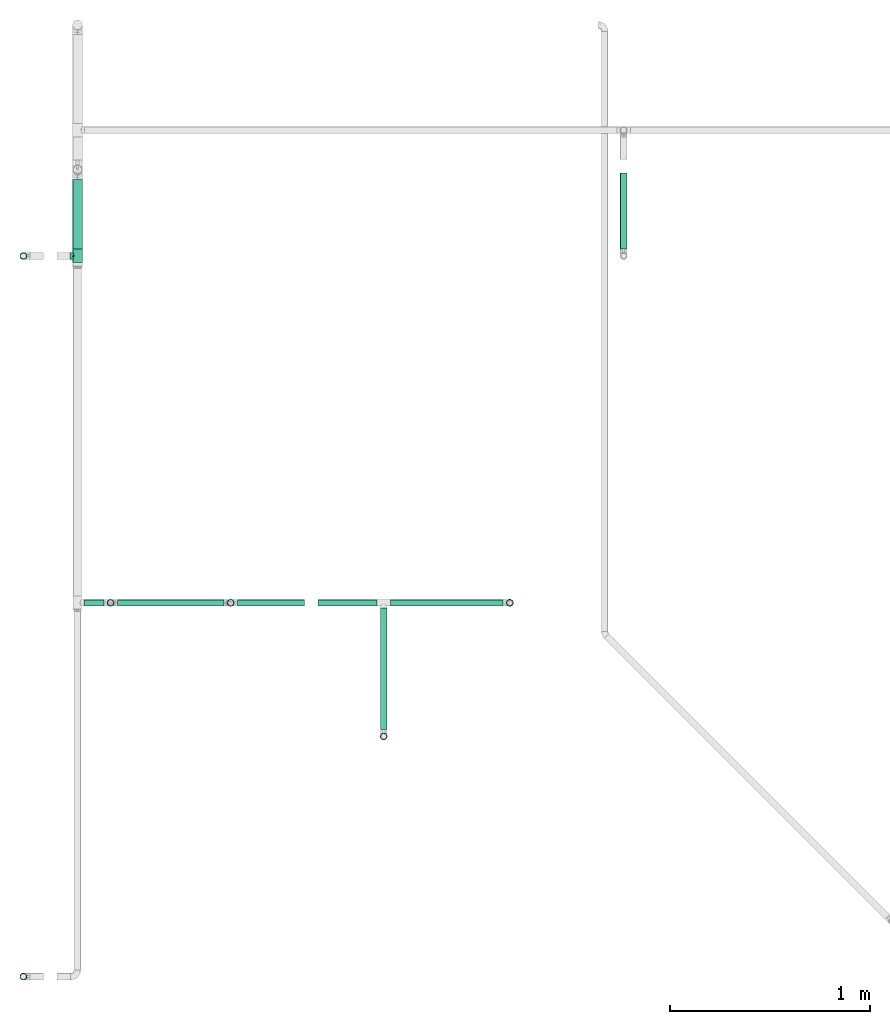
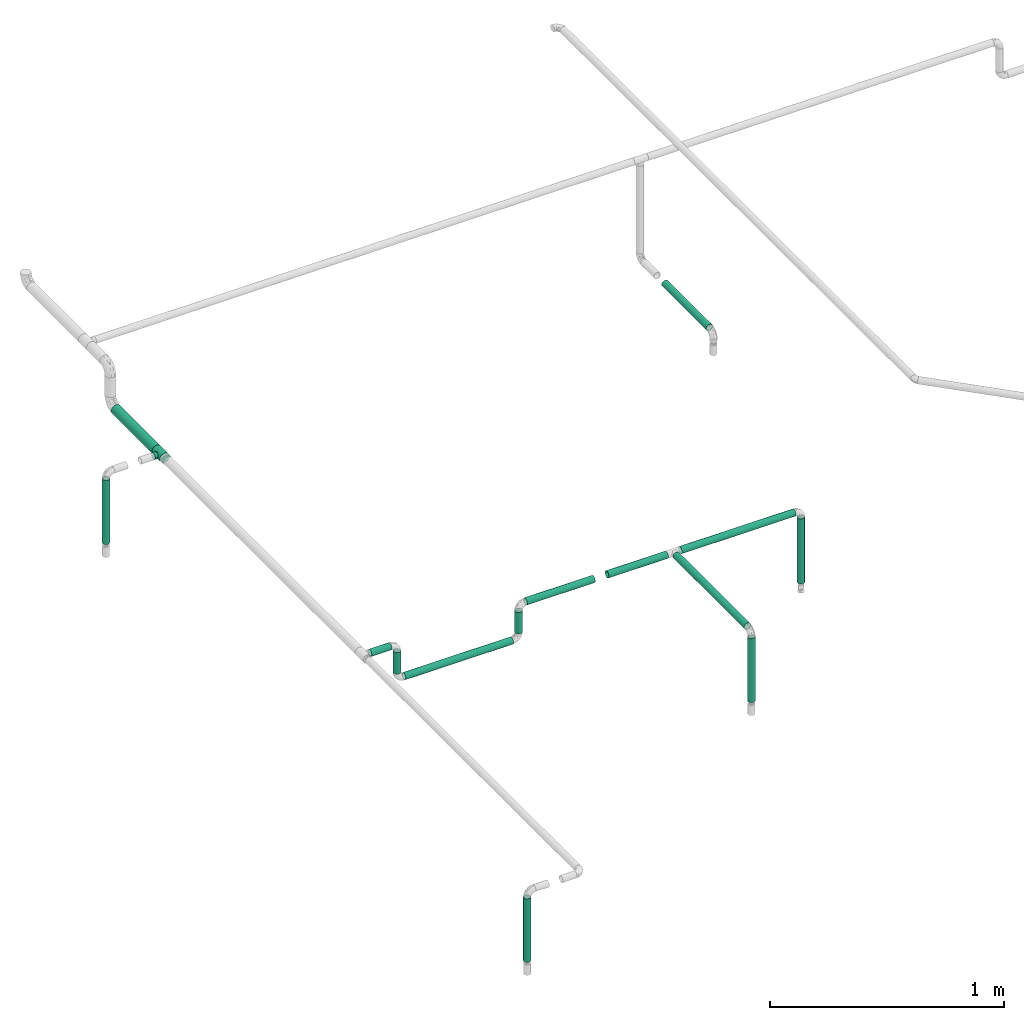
# One storey, part 4 of 17: 14 flow segments, 1 flow fitting.
"""IFC2X3 building model written with IfcOpenShell, lengths in millimetres."""

from ifc_helpers import new_model, entity, si_unit, converted_unit, derived_unit, direction, frame, origin_with_axes, origin_2d_with_axis, place, context, subcontext, project, spatial, hollow_circle, extrude, open_shell, surface_model, source, transform, mapped, type_object, element, save


model = new_model("IFC2X3")

# Units and contexts
model_context = context("Model", 3, precision=0.01, world=frame((0.0, 4.29681676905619e-09, 0.0)), true_north=direction((4.01073788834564e-13, 1.0)))
plan_context = context("Plan", 3, precision=0.01, world=frame((0.0, 4.29681676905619e-09, 0.0)), true_north=direction((4.01073788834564e-13, 1.0)))
body_context = subcontext(model_context, "Body", "Model", "MODEL_VIEW")
ifc_project = project(units=[converted_unit("PLANEANGLEUNIT", "DEGREE", entity("IfcPositiveLengthMeasure", 0.0174532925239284), si_unit("PLANEANGLEUNIT", "RADIAN"), dimensions=[0, 0, 0, 0, 0, 0, 0]), si_unit("AREAUNIT", "SQUARE_METRE"), si_unit("LENGTHUNIT", "METRE", prefix="MILLI"), si_unit("MASSUNIT", "GRAM", prefix="KILO"), si_unit("POWERUNIT", "WATT"), si_unit("PRESSUREUNIT", "PASCAL", prefix="KILO"), si_unit("FORCEUNIT", "NEWTON", prefix="KILO"), si_unit("ELECTRICVOLTAGEUNIT", "VOLT"), si_unit("ELECTRICCURRENTUNIT", "AMPERE"), si_unit("THERMODYNAMICTEMPERATUREUNIT", "DEGREE_CELSIUS"), si_unit("TIMEUNIT", "SECOND"), si_unit("VOLUMEUNIT", "CUBIC_METRE"), derived_unit("LINEARVELOCITYUNIT", [(si_unit("LENGTHUNIT", "METRE"), 1), (si_unit("TIMEUNIT", "SECOND"), -1)]), derived_unit("VOLUMETRICFLOWRATEUNIT", [(si_unit("VOLUMEUNIT", "CUBIC_METRE"), 1), (si_unit("TIMEUNIT", "SECOND"), -1)]), derived_unit("THERMALTRANSMITTANCEUNIT", [(si_unit("POWERUNIT", "WATT"), 1), (si_unit("THERMODYNAMICTEMPERATUREUNIT", "KELVIN"), -1), (si_unit("AREAUNIT", "SQUARE_METRE"), -1)]), derived_unit("SOUNDPRESSUREUNIT", [(si_unit("PRESSUREUNIT", "PASCAL"), 1)])], contexts=[model_context, plan_context])

# Site, building, storey
site_placement = place(None, frame((0.0, -4.29681676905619e-09, 0.0), z_axis=(0.0, 0.0, 1.0), x_axis=(1.0, 0.0, 0.0)))
site = spatial("IfcSite", under=ifc_project, at=site_placement, CompositionType="ELEMENT")
building_placement = place(site_placement, frame((0.0, 4.29681676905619e-09, 0.0), z_axis=(0.0, 0.0, 1.0), x_axis=(1.0, 0.0, 0.0)))
building = spatial("IfcBuilding", under=site, at=building_placement, Name="mc-building", CompositionType="ELEMENT")
storey_placement = place(building_placement, frame((0.0, 0.0, 204000.0), z_axis=(0.0, 0.0, 1.0), x_axis=(1.0, 0.0, 0.0)))
storey = spatial("IfcBuildingStorey", under=building, at=storey_placement, Name="Nivå D", CompositionType="ELEMENT", Elevation=204000.0)

# Flow fitting
pipe_fitting_type = type_object("IfcPipeFittingType", Name="magi_pipe_fe_tee_centric_90_NOR", PredefinedType="JUNCTION")
shared_shape_1 = source(origin_with_axes(), body_context, "Body", "SurfaceModel", [
    surface_model("IfcShellBasedSurfaceModel", [(-33.8, 0.0, -24.2), (-33.8, -6.26342, -23.37541), (-33.8, 6.26342, -23.37541), (-33.8, 12.1, -20.95781), (-33.8, 17.11198, -17.11198), (-33.8, 20.95781, -12.1), (-33.8, -23.37541, -6.26342), (-33.8, 23.37541, -6.26342), (-33.8, -17.11198, -17.11198), (-33.8, -20.95781, -12.1), (-33.8, -12.1, -20.95781), (-33.8, -24.2, 0.0), (-33.8, -23.37541, 6.26342), (-33.8, 20.95781, 12.1), (-33.8, 23.37541, 6.26342), (-33.8, 24.2, 0.0), (-33.8, 12.1, 20.95781), (-33.8, 17.11198, 17.11198), (-33.8, -17.11198, 17.11198), (-33.8, 6.26342, 23.37541), (-33.8, -20.95781, 12.1), (-33.8, -12.1, 20.95781), (-33.8, -6.26342, 23.37541), (-33.8, 0.0, 24.2), (33.8, 6.26342, -23.37541), (33.8, -6.26342, -23.37541), (33.8, 0.0, -24.2), (33.8, 17.11198, -17.11198), (33.8, 12.1, -20.95781), (33.8, -23.37541, -6.26342), (33.8, 20.95781, -12.1), (33.8, 23.37541, -6.26342), (33.8, -17.11198, -17.11198), (33.8, -12.1, -20.95781), (33.8, -20.95781, -12.1), (33.8, -24.2, 0.0), (33.8, 24.2, 0.0), (33.8, 23.37541, 6.26342), (33.8, 20.95781, 12.1), (33.8, -23.37541, 6.26342), (33.8, -17.11198, 17.11198), (33.8, 12.1, 20.95781), (33.8, 17.11198, 17.11198), (33.8, 6.26342, 23.37541), (33.8, -20.95781, 12.1), (33.8, -12.1, 20.95781), (33.8, 0.0, 24.2), (33.8, -6.26342, 23.37541), (15.81824, -23.45734, 5.94922), (16.9, -24.2, 0.0), (12.87025, -21.57947, 10.95293), (33.8, -19.0349, 14.60599), (8.52813, -19.30697, 14.59044), (3.03527, -17.5853, 16.6252), (-3.04044, -17.58619, 16.62425), (-8.52961, -19.30762, 14.58958), (-33.8, -19.0349, 14.60599), (-16.9, -24.2, 0.0), (-15.81885, -23.45775, 5.9476), (-12.87368, -21.58151, 10.9489), (3.03527, -17.5853, -16.6252), (33.8, -19.0349, -14.60599), (8.52813, -19.30697, -14.59044), (-8.52961, -19.30762, -14.58958), (-33.8, -19.0349, -14.60599), (12.87025, -21.57947, -10.95293), (-3.04044, -17.58619, -16.62425), (15.81824, -23.45734, -5.94922), (-12.87368, -21.58151, -10.9489), (-15.81885, -23.45775, -5.9476), (4.37404, -36.3, -16.32415), (-16.9, -36.3, 0.0), (0.0, -36.3, -16.9), (14.63583, -36.3, -8.45), (8.45, -36.3, -14.63583), (16.32415, -36.3, -4.37404), (11.9501, -36.3, -11.9501), (-11.9501, -36.3, -11.9501), (-8.45, -36.3, -14.63583), (-4.37404, -36.3, -16.32415), (-14.63583, -36.3, -8.45), (-16.32415, -36.3, -4.37404), (16.9, -36.3, 0.0), (8.45, -36.3, 14.63583), (16.32415, -36.3, 4.37404), (14.63583, -36.3, 8.45), (-8.45, -36.3, 14.63583), (11.9501, -36.3, 11.9501), (4.37404, -36.3, 16.32415), (-16.32415, -36.3, 4.37404), (-11.9501, -36.3, 11.9501), (-14.63583, -36.3, 8.45), (0.0, -36.3, 16.9), (-4.37404, -36.3, 16.32415), (-16.35943, -23.82888, 2.9738), (16.35912, -23.82867, 2.97461), (-0.00259, -17.58575, 16.62472), (16.35912, -23.82867, -2.97461), (-0.00259, -17.58575, -16.62472), (-16.35943, -23.82888, -2.9738)], [open_shell([[[0, 1, 2]], [[3, 2, 4]], [[5, 2, 6]], [[4, 2, 5]], [[7, 5, 6]], [[8, 9, 10]], [[1, 10, 9]], [[1, 9, 2]], [[9, 6, 2]], [[6, 11, 7]], [[11, 12, 7]], [[13, 14, 15]], [[13, 15, 12]], [[16, 17, 18]], [[12, 17, 13]], [[19, 16, 18]], [[20, 18, 12]], [[18, 17, 12]], [[21, 22, 18]], [[23, 18, 22]], [[18, 23, 19]], [[7, 12, 15]], [[24, 25, 26]], [[27, 24, 28]], [[29, 24, 30]], [[30, 24, 27]], [[29, 30, 31]], [[25, 32, 33]], [[32, 25, 34]], [[24, 34, 25]], [[24, 29, 34]], [[31, 35, 29]], [[31, 36, 35]], [[36, 37, 38]], [[39, 36, 38]], [[40, 38, 41]], [[41, 38, 42]], [[40, 41, 43]], [[39, 40, 44]], [[39, 38, 40]], [[45, 46, 47]], [[46, 45, 40]], [[43, 46, 40]], [[36, 39, 35]], [[35, 39, 48]], [[48, 49, 35]], [[39, 50, 48]], [[51, 40, 52]], [[52, 50, 44]], [[53, 52, 40]], [[54, 53, 21]], [[44, 50, 39]], [[55, 18, 56]], [[57, 58, 11]], [[12, 11, 58]], [[58, 59, 12]], [[55, 54, 18]], [[55, 20, 59]], [[20, 55, 56]], [[59, 20, 12]], [[18, 54, 21]], [[52, 44, 51]], [[53, 40, 45]], [[23, 47, 46]], [[22, 45, 47]], [[19, 46, 43]], [[38, 37, 14]], [[17, 41, 42]], [[13, 42, 38]], [[43, 41, 16]], [[15, 37, 36]], [[21, 45, 22]], [[22, 47, 23]], [[19, 23, 46]], [[43, 16, 19]], [[16, 41, 17]], [[13, 17, 42]], [[14, 13, 38]], [[37, 15, 14]], [[45, 21, 53]], [[5, 31, 30]], [[7, 36, 31]], [[4, 30, 27]], [[26, 25, 1]], [[2, 28, 24]], [[0, 24, 26]], [[27, 28, 3]], [[10, 25, 33]], [[15, 36, 7]], [[7, 31, 5]], [[4, 5, 30]], [[27, 3, 4]], [[3, 28, 2]], [[0, 2, 24]], [[1, 0, 26]], [[25, 10, 1]], [[33, 60, 10]], [[61, 34, 62]], [[63, 9, 64]], [[62, 60, 32]], [[34, 65, 62]], [[66, 10, 60]], [[29, 35, 67]], [[67, 65, 29]], [[49, 67, 35]], [[29, 65, 34]], [[66, 63, 8]], [[62, 32, 61]], [[64, 8, 63]], [[63, 68, 9]], [[8, 10, 66]], [[68, 69, 6]], [[69, 11, 6]], [[11, 69, 57]], [[68, 6, 9]], [[60, 33, 32]], [[70, 71, 72]], [[73, 70, 74]], [[73, 75, 70]], [[73, 74, 76]], [[71, 70, 75]], [[72, 77, 78]], [[78, 79, 72]], [[80, 71, 81]], [[77, 72, 80]], [[71, 80, 72]], [[75, 82, 71]], [[83, 82, 84]], [[83, 84, 85]], [[86, 71, 83]], [[83, 85, 87]], [[86, 83, 88]], [[89, 90, 91]], [[90, 89, 86]], [[86, 92, 93]], [[89, 71, 86]], [[88, 92, 86]], [[83, 71, 82]], [[89, 94, 71]], [[59, 91, 90]], [[89, 91, 58]], [[90, 86, 55]], [[89, 58, 94]], [[94, 57, 71]], [[58, 91, 59]], [[95, 48, 84]], [[55, 93, 54]], [[55, 59, 90]], [[92, 53, 96]], [[55, 86, 93]], [[53, 92, 88]], [[83, 52, 88]], [[87, 85, 50]], [[87, 52, 83]], [[48, 85, 84]], [[87, 50, 52]], [[52, 53, 88]], [[82, 95, 84]], [[48, 50, 85]], [[95, 82, 49]], [[92, 54, 93]], [[96, 54, 92]], [[75, 97, 82]], [[65, 73, 76]], [[75, 73, 67]], [[76, 74, 62]], [[97, 49, 82]], [[67, 73, 65]], [[62, 70, 60]], [[62, 65, 76]], [[72, 66, 98]], [[62, 74, 70]], [[99, 71, 57]], [[99, 69, 81]], [[75, 67, 97]], [[79, 66, 72]], [[69, 80, 81]], [[77, 80, 68]], [[72, 60, 70]], [[79, 63, 66]], [[63, 79, 78]], [[78, 77, 63]], [[63, 77, 68]], [[68, 80, 69]], [[71, 99, 81]], [[98, 60, 72]]])]),
])
flow_fitting_placement = place(storey_placement, frame((596244.66498, 404050.01942, 2780.0), z_axis=(0.0, 0.0, 1.0), x_axis=(0.0, -1.0, 0.0)))
element("IfcFlowFitting", 1, at=flow_fitting_placement, inside=storey, type_object=pipe_fitting_type, Name="magi_pipe_fe_tee_centric_90_NOR", context=body_context, shape_type="MappedRepresentation", body=[
    mapped(shared_shape_1, transform((0.0, 0.0, 0.0), scale=1.0)),
])

# Flow segments
pipe_segment_type = type_object("IfcPipeSegmentType", Name="Stålrør normaltykke", PredefinedType="RIGIDSEGMENT")
shared_shape_2 = source(origin_with_axes(), body_context, "Body", "SweptSolid", [
    extrude(hollow_circle(Radius=16.9, WallThickness=2.0, at=origin_2d_with_axis()), frame((0.0, 0.0, 0.0), z_axis=(1.0, 0.0, 0.0), x_axis=(0.0, 1.0, 0.0)), (0.0, 0.0, 1.0), 330.8),
])
flow_segment_1_placement = place(storey_placement, frame((595974.5, 400450.01942, 2415.448), z_axis=(0.0, 1.0, 0.0), x_axis=(0.0, 0.0, 1.0)))
element("IfcFlowSegment", 2, at=flow_segment_1_placement, inside=storey, type_object=pipe_segment_type, Name="Stålrør normaltykke", context=body_context, shape_type="MappedRepresentation", body=[
    mapped(shared_shape_2, transform((0.0, 0.0, 0.0), scale=1.0)),
])
shared_shape_3 = source(origin_with_axes(), body_context, "Body", "SweptSolid", [
    extrude(hollow_circle(Radius=16.9, WallThickness=2.0, at=origin_2d_with_axis()), frame((0.0, 0.0, 0.0), z_axis=(1.0, 0.0, 0.0), x_axis=(0.0, 1.0, 0.0)), (0.0, 0.0, 1.0), 333.8),
])
for number, where, z_axis, x_axis in (
    (3, (597774.5, 401650.01942, 2412.39999999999), (0.0, 1.0, 0.0), (0.0, 0.0, 1.0)),
    (4, (595974.5, 404050.01942, 2412.39999999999), (0.0, 1.0, 0.0), (0.0, 0.0, 1.0)),
):
    element("IfcFlowSegment", number, at=place(storey_placement, frame(where, z_axis=z_axis, x_axis=x_axis)), inside=storey, type_object=pipe_segment_type, Name="Stålrør normaltykke", context=body_context, shape_type="MappedRepresentation", body=[
        mapped(shared_shape_3, transform((0.0, 0.0, 0.0), scale=1.0)),
    ])
shared_shape_4 = source(origin_with_axes(), body_context, "Body", "SweptSolid", [
    extrude(hollow_circle(Radius=24.1, WallThickness=2.0, at=origin_2d_with_axis()), frame((0.0, 0.0, 0.0), z_axis=(1.0, 0.0, 0.0), x_axis=(0.0, 1.0, 0.0)), (0.0, 0.0, 1.0), 349.1),
])
flow_segment_2_placement = place(storey_placement, frame((596244.66498, 404083.81942, 2780.0), z_axis=(0.0, 0.0, 1.0), x_axis=(0.0, 1.0, 0.0)))
element("IfcFlowSegment", 5, at=flow_segment_2_placement, inside=storey, type_object=pipe_segment_type, Name="Stålrør normaltykke", context=body_context, shape_type="MappedRepresentation", body=[
    mapped(shared_shape_4, transform((0.0, 0.0, 0.0), scale=1.0)),
])
shared_shape_5 = source(origin_with_axes(), body_context, "Body", "SweptSolid", [
    extrude(hollow_circle(Radius=16.9, WallThickness=2.0, at=origin_2d_with_axis()), frame((0.0, 0.0, 0.0), z_axis=(1.0, 0.0, 0.0), x_axis=(0.0, 1.0, 0.0)), (0.0, 0.0, 1.0), 339.2),
])
flow_segment_3_placement = place(storey_placement, frame((598404.25829, 402317.53152, 2407.0), z_axis=(1.0, 0.0, 0.0), x_axis=(0.0, 0.0, 1.0)))
element("IfcFlowSegment", 6, at=flow_segment_3_placement, inside=storey, type_object=pipe_segment_type, Name="Stålrør normaltykke", context=body_context, shape_type="MappedRepresentation", body=[
    mapped(shared_shape_5, transform((0.0, 0.0, 0.0), scale=1.0)),
])
shared_shape_6 = source(origin_with_axes(), body_context, "Body", "SweptSolid", [
    extrude(hollow_circle(Radius=16.9, WallThickness=2.0, at=origin_2d_with_axis()), frame((0.0, 0.0, 0.0), z_axis=(1.0, 0.0, 0.0), x_axis=(0.0, 1.0, 0.0)), (0.0, 0.0, 1.0), 336.0),
])
flow_segment_4_placement = place(storey_placement, frame((597379.78958, 402317.53152, 2780.0), z_axis=(0.0, 0.0, 1.0), x_axis=(-1.0, 0.0, 0.0)))
element("IfcFlowSegment", 7, at=flow_segment_4_placement, inside=storey, type_object=pipe_segment_type, Name="Stålrør normaltykke", context=body_context, shape_type="MappedRepresentation", body=[
    mapped(shared_shape_6, transform((0.0, 0.0, 0.0), scale=1.0)),
])
shared_shape_7 = source(origin_with_axes(), body_context, "Body", "SweptSolid", [
    extrude(hollow_circle(Radius=16.9, WallThickness=2.0, at=origin_2d_with_axis()), frame((0.0, 0.0, 0.0), z_axis=(1.0, 0.0, 0.0), x_axis=(0.0, 1.0, 0.0)), (0.0, 0.0, 1.0), 99.8),
])
flow_segment_5_placement = place(storey_placement, frame((596276.46498, 402317.53152, 2780.0), z_axis=(0.0, 0.0, 1.0), x_axis=(1.0, 0.0, 0.0)))
element("IfcFlowSegment", 8, at=flow_segment_5_placement, inside=storey, type_object=pipe_segment_type, Name="Stålrør normaltykke", context=body_context, shape_type="MappedRepresentation", body=[
    mapped(shared_shape_7, transform((0.0, 0.0, 0.0), scale=1.0)),
])
shared_shape_8 = source(origin_with_axes(), body_context, "Body", "SweptSolid", [
    extrude(hollow_circle(Radius=16.9, WallThickness=2.0, at=origin_2d_with_axis()), frame((0.0, 0.0, 0.0), z_axis=(1.0, 0.0, 0.0), x_axis=(0.0, 1.0, 0.0)), (0.0, 0.0, 1.0), 112.4),
])
for number, where, z_axis, x_axis in (
    (9, (596410.01498, 402317.53152, 2746.20000000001), (0.0, 1.0, 0.0), (0.0, 0.0, -1.0)),
    (10, (597010.01498, 402317.53152, 2633.79999999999), (0.0, 1.0, 0.0), (0.0, 0.0, 1.0)),
):
    element("IfcFlowSegment", number, at=place(storey_placement, frame(where, z_axis=z_axis, x_axis=x_axis)), inside=storey, type_object=pipe_segment_type, Name="Stålrør normaltykke", context=body_context, shape_type="MappedRepresentation", body=[
        mapped(shared_shape_8, transform((0.0, 0.0, 0.0), scale=1.0)),
    ])
shared_shape_9 = source(origin_with_axes(), body_context, "Body", "SweptSolid", [
    extrude(hollow_circle(Radius=16.9, WallThickness=2.0, at=origin_2d_with_axis()), frame((0.0, 0.0, 0.0), z_axis=(1.0, 0.0, 0.0), x_axis=(0.0, 1.0, 0.0)), (0.0, 0.0, 1.0), 532.4),
])
flow_segment_6_placement = place(storey_placement, frame((596443.81498, 402317.53152, 2600.0), z_axis=(0.0, 0.0, 1.0), x_axis=(1.0, 0.0, 0.0)))
element("IfcFlowSegment", 11, at=flow_segment_6_placement, inside=storey, type_object=pipe_segment_type, Name="Stålrør normaltykke", context=body_context, shape_type="MappedRepresentation", body=[
    mapped(shared_shape_9, transform((0.0, 0.0, 0.0), scale=1.0)),
])
shared_shape_10 = source(origin_with_axes(), body_context, "Body", "SweptSolid", [
    extrude(hollow_circle(Radius=16.9, WallThickness=2.0, at=origin_2d_with_axis()), frame((0.0, 0.0, 0.0), z_axis=(1.0, 0.0, 0.0), x_axis=(0.0, 1.0, 0.0)), (0.0, 0.0, 1.0), 608.4),
])
flow_segment_7_placement = place(storey_placement, frame((597774.5, 402292.18152, 2780.0), z_axis=(0.0, 0.0, 1.0), x_axis=(0.0, -1.0, 0.0)))
element("IfcFlowSegment", 12, at=flow_segment_7_placement, inside=storey, type_object=pipe_segment_type, Name="Stålrør normaltykke", context=body_context, shape_type="MappedRepresentation", body=[
    mapped(shared_shape_10, transform((0.0, 0.0, 0.0), scale=1.0)),
])
shared_shape_11 = source(origin_with_axes(), body_context, "Body", "SweptSolid", [
    extrude(hollow_circle(Radius=16.9, WallThickness=2.0, at=origin_2d_with_axis()), frame((0.0, 0.0, 0.0), z_axis=(1.0, 0.0, 0.0), x_axis=(0.0, 1.0, 0.0)), (0.0, 0.0, 1.0), 562.2),
])
flow_segment_8_placement = place(storey_placement, frame((598370.45829, 402317.53152, 2780.0), z_axis=(0.0, 0.0, 1.0), x_axis=(-1.0, 0.0, 0.0)))
element("IfcFlowSegment", 13, at=flow_segment_8_placement, inside=storey, type_object=pipe_segment_type, Name="Stålrør normaltykke", context=body_context, shape_type="MappedRepresentation", body=[
    mapped(shared_shape_11, transform((0.0, 0.0, 0.0), scale=1.0)),
])
shared_shape_12 = source(origin_with_axes(), body_context, "Body", "SweptSolid", [
    extrude(hollow_circle(Radius=16.9, WallThickness=2.0, at=origin_2d_with_axis()), frame((0.0, 0.0, 0.0), z_axis=(1.0, 0.0, 0.0), x_axis=(0.0, 1.0, 0.0)), (0.0, 0.0, 1.0), 293.3),
])
flow_segment_9_placement = place(storey_placement, frame((597740.7, 402317.53152, 2780.0), z_axis=(0.0, 0.0, 1.0), x_axis=(-1.0, 0.0, 0.0)))
element("IfcFlowSegment", 14, at=flow_segment_9_placement, inside=storey, type_object=pipe_segment_type, Name="Stålrør normaltykke", context=body_context, shape_type="MappedRepresentation", body=[
    mapped(shared_shape_12, transform((0.0, 0.0, 0.0), scale=1.0)),
])
shared_shape_13 = source(origin_with_axes(), body_context, "Body", "SweptSolid", [
    extrude(hollow_circle(Radius=16.9, WallThickness=2.0, at=origin_2d_with_axis()), frame((0.0, 0.0, 0.0), z_axis=(1.0, 0.0, 0.0), x_axis=(0.0, 1.0, 0.0)), (0.0, 0.0, 1.0), 379.9),
])
flow_segment_10_placement = place(storey_placement, frame((598972.72783, 404083.81942, 2463.04800000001), z_axis=(0.0, 0.0, 1.0), x_axis=(0.0, 1.0, 0.0)))
element("IfcFlowSegment", 15, at=flow_segment_10_placement, inside=storey, type_object=pipe_segment_type, Name="Stålrør normaltykke", context=body_context, shape_type="MappedRepresentation", body=[
    mapped(shared_shape_13, transform((0.0, 0.0, 0.0), scale=1.0)),
])

save(model, "model.ifc")
